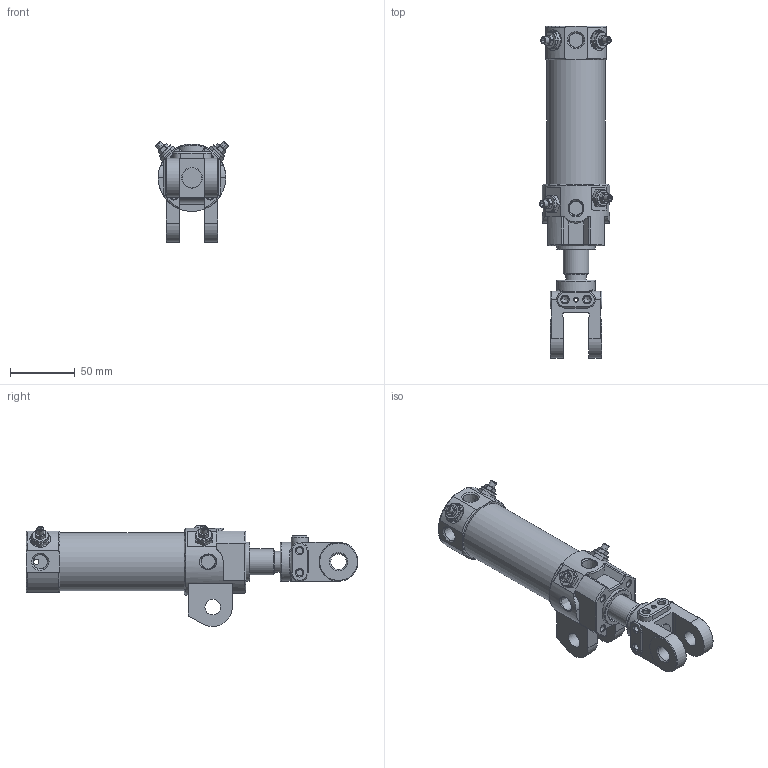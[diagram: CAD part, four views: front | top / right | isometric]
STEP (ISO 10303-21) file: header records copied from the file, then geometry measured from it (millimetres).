
FILE_DESCRIPTION((''),'2;1');
FILE_NAME('I:\3D電子目錄\氣缸\DCK\DCK\DCK-1B-40x50-Y.stp','2008-02-26T11:19:43',('Administrator'),(''),'Autodesk Inventor 11','Autodesk Inventor 11','');
FILE_SCHEMA(('AUTOMOTIVE_DESIGN { 1 0 10303 214 1 1 1 1 }'));
Length unit declared in the file: millimetre
Products named in the file (6): DCK-1B-40-Y; 緩衝針; 緩衝針-1; 緩衝針-201; 緩衝針-3
Assembly tree (8 placements, depth 3):
  DCK-1B-40-Y
    DCK-1B-40-Y
    緩衝針  x4
      緩衝針-1
      緩衝針-201
      緩衝針-3
Bounding box: 56.06 x 256 x 78.02 mm (x, y, z)
Volume: 226896.5 mm3; surface area: 91674.5 mm2
Topology: 15 solids, 15 shells, 729 faces, 1682 edges, 1040 vertices
Faces by surface type: plane 242, cylinder 217, cone 146, bspline 82, torus 40, sphere 2
Full cylindrical faces by diameter (mm): 2 x1, 3 x3, 3.8 x2, 4 x6, 4.6 x4, 5 x8, 5.1 x4, 5.2 x12, 5.5 x4, 7 x1, 7.25 x1, 7.9 x4, 8 x2, 8.3 x1, 10 x2, 12 x4, 12.8 x4, 16 x3, 20 x1, 21 x1, 22 x3, 23 x1, 24.7 x1, 26 x1, 28 x1, 29 x1, 30 x4, 33 x1, 40 x1, 42 x2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
Entity records: 24502 total; most frequent: CARTESIAN_POINT 14386, DIRECTION 1975, ORIENTED_EDGE 1956, EDGE_CURVE 978, AXIS2_PLACEMENT_3D 841, EDGE_LOOP 681, VERTEX_POINT 677, FACE_OUTER_BOUND 478
